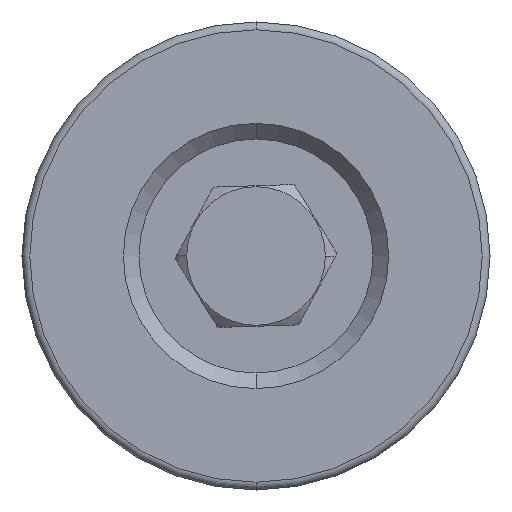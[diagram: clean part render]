
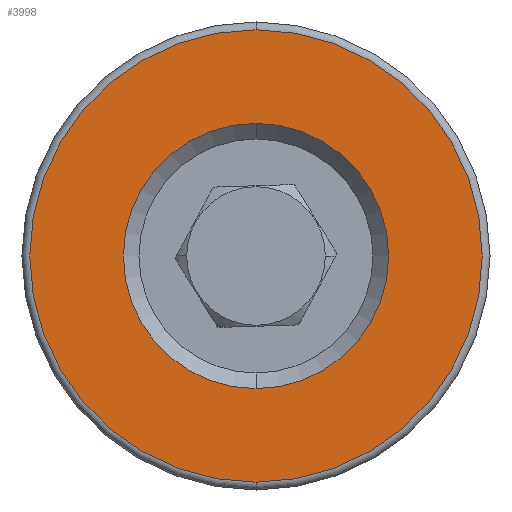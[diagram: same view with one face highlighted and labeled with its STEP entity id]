
A CAD part, front view. The second image highlights one B-rep face of the part: STEP entity #3998.
In plain terms, the highlighted planar face has unit normal (0, -1, 0).
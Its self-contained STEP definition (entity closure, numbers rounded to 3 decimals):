
#193 = CIRCLE ( 'NONE', #13777, 17. ) ;
#203 = ORIENTED_EDGE ( 'NONE', *, *, #13086, .T. ) ;
#274 = VERTEX_POINT ( 'NONE', #2314 ) ;
#392 = CARTESIAN_POINT ( 'NONE',  ( 0., -26., 29. ) ) ;
#475 = EDGE_CURVE ( 'NONE', #10388, #8272, #10591, .T. ) ;
#838 = DIRECTION ( 'NONE',  ( 0., 0., 1. ) ) ;
#1173 = ORIENTED_EDGE ( 'NONE', *, *, #9532, .T. ) ;
#1278 = DIRECTION ( 'NONE',  ( 0., -1., 0. ) ) ;
#2314 = CARTESIAN_POINT ( 'NONE',  ( 0., -26., 17. ) ) ;
#2355 = FACE_BOUND ( 'NONE', #12320, .T. ) ;
#2373 = DIRECTION ( 'NONE',  ( 0., 0., 1. ) ) ;
#2645 = PLANE ( 'NONE',  #7862 ) ;
#2978 = AXIS2_PLACEMENT_3D ( 'NONE', #5974, #11458, #2373 ) ;
#3841 = DIRECTION ( 'NONE',  ( 0., 1., 0. ) ) ;
#3858 = CIRCLE ( 'NONE', #2978, 29. ) ;
#3998 = ADVANCED_FACE ( 'NONE', ( #13635, #2355 ), #2645, .F. ) ;
#4213 = CARTESIAN_POINT ( 'NONE',  ( 0., -26., 0. ) ) ;
#4465 = CIRCLE ( 'NONE', #9432, 17. ) ;
#4969 = CARTESIAN_POINT ( 'NONE',  ( 0., -26., 0. ) ) ;
#4988 = DIRECTION ( 'NONE',  ( 0., 0., 1. ) ) ;
#5508 = ORIENTED_EDGE ( 'NONE', *, *, #475, .T. ) ;
#5974 = CARTESIAN_POINT ( 'NONE',  ( 0., -26., 0. ) ) ;
#6392 = ORIENTED_EDGE ( 'NONE', *, *, #8910, .T. ) ;
#6433 = DIRECTION ( 'NONE',  ( 0., 1., 0. ) ) ;
#6658 = CARTESIAN_POINT ( 'NONE',  ( 0., -26., 0. ) ) ;
#7233 = AXIS2_PLACEMENT_3D ( 'NONE', #4969, #1278, #12578 ) ;
#7397 = EDGE_LOOP ( 'NONE', ( #203, #5508 ) ) ;
#7862 = AXIS2_PLACEMENT_3D ( 'NONE', #6658, #13606, #838 ) ;
#8272 = VERTEX_POINT ( 'NONE', #392 ) ;
#8663 = VERTEX_POINT ( 'NONE', #10148 ) ;
#8910 = EDGE_CURVE ( 'NONE', #8663, #274, #4465, .T. ) ;
#9432 = AXIS2_PLACEMENT_3D ( 'NONE', #4213, #6433, #4988 ) ;
#9532 = EDGE_CURVE ( 'NONE', #274, #8663, #193, .T. ) ;
#10148 = CARTESIAN_POINT ( 'NONE',  ( 0., -26., -17. ) ) ;
#10388 = VERTEX_POINT ( 'NONE', #11291 ) ;
#10591 = CIRCLE ( 'NONE', #7233, 29. ) ;
#11127 = CARTESIAN_POINT ( 'NONE',  ( 0., -26., 0. ) ) ;
#11291 = CARTESIAN_POINT ( 'NONE',  ( 0., -26., -29. ) ) ;
#11458 = DIRECTION ( 'NONE',  ( 0., -1., 0. ) ) ;
#12320 = EDGE_LOOP ( 'NONE', ( #6392, #1173 ) ) ;
#12578 = DIRECTION ( 'NONE',  ( 0., 0., 1. ) ) ;
#13086 = EDGE_CURVE ( 'NONE', #8272, #10388, #3858, .T. ) ;
#13606 = DIRECTION ( 'NONE',  ( 0., 1., 0. ) ) ;
#13635 = FACE_OUTER_BOUND ( 'NONE', #7397, .T. ) ;
#13701 = DIRECTION ( 'NONE',  ( 0., 0., 1. ) ) ;
#13777 = AXIS2_PLACEMENT_3D ( 'NONE', #11127, #3841, #13701 ) ;
